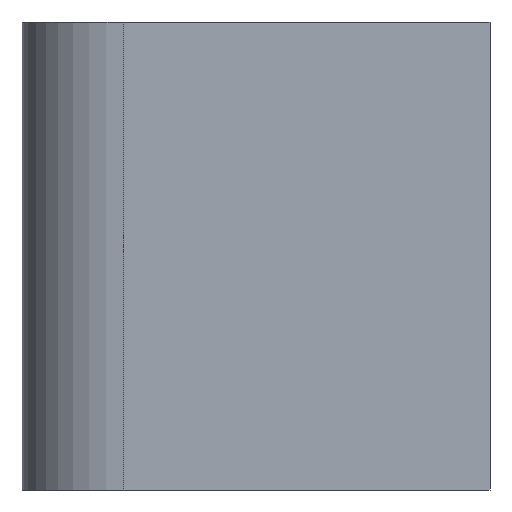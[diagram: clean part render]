
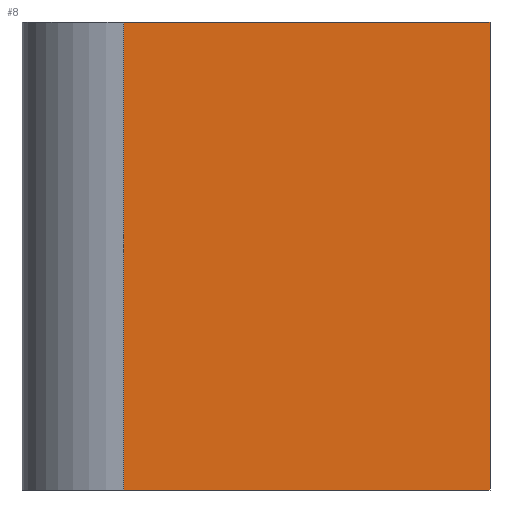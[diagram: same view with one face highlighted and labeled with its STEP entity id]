
A CAD part, left-side view. The second image highlights one B-rep face of the part: STEP entity #8.
In plain terms, the highlighted planar face has unit normal (-1, 0, 0).
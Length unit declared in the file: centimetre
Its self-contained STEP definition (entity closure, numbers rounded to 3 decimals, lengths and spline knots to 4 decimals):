
#7 = CARTESIAN_POINT ( 'NONE',  ( 0., 1000., 0. ) ) ;
#8 = ADVANCED_FACE ( 'NONE', ( #396 ), #41, .F. ) ;
#39 = VERTEX_POINT ( 'NONE', #788 ) ;
#41 = PLANE ( 'NONE',  #840 ) ;
#45 = CARTESIAN_POINT ( 'NONE',  ( 0., 1000., 1000. ) ) ;
#53 = DIRECTION ( 'NONE',  ( 0., -1., 0. ) ) ;
#177 = EDGE_LOOP ( 'NONE', ( #456, #339, #236, #620 ) ) ;
#211 = DIRECTION ( 'NONE',  ( 0., -1., 0. ) ) ;
#236 = ORIENTED_EDGE ( 'NONE', *, *, #947, .T. ) ;
#255 = VECTOR ( 'NONE', #1184, 100. ) ;
#263 = EDGE_CURVE ( 'NONE', #799, #39, #1179, .T. ) ;
#309 = CARTESIAN_POINT ( 'NONE',  ( 0., 1000., 1000. ) ) ;
#339 = ORIENTED_EDGE ( 'NONE', *, *, #475, .T. ) ;
#360 = EDGE_CURVE ( 'NONE', #39, #1107, #537, .T. ) ;
#390 = VECTOR ( 'NONE', #467, 100. ) ;
#396 = FACE_OUTER_BOUND ( 'NONE', #177, .T. ) ;
#415 = VERTEX_POINT ( 'NONE', #1108 ) ;
#417 = DIRECTION ( 'NONE',  ( 0., 0., -1. ) ) ;
#456 = ORIENTED_EDGE ( 'NONE', *, *, #263, .F. ) ;
#467 = DIRECTION ( 'NONE',  ( 0., 0., -1. ) ) ;
#475 = EDGE_CURVE ( 'NONE', #799, #415, #477, .T. ) ;
#477 = LINE ( 'NONE', #1116, #390 ) ;
#537 = LINE ( 'NONE', #908, #255 ) ;
#586 = LINE ( 'NONE', #7, #666 ) ;
#620 = ORIENTED_EDGE ( 'NONE', *, *, #360, .F. ) ;
#666 = VECTOR ( 'NONE', #211, 100. ) ;
#677 = CARTESIAN_POINT ( 'NONE',  ( 0., 782.9565, 1000. ) ) ;
#777 = CARTESIAN_POINT ( 'NONE',  ( 0., 0., 0. ) ) ;
#788 = CARTESIAN_POINT ( 'NONE',  ( 0., 0., 1000. ) ) ;
#799 = VERTEX_POINT ( 'NONE', #677 ) ;
#840 = AXIS2_PLACEMENT_3D ( 'NONE', #309, #887, #417 ) ;
#887 = DIRECTION ( 'NONE',  ( 1., 0., 0. ) ) ;
#908 = CARTESIAN_POINT ( 'NONE',  ( 0., 0., 1000. ) ) ;
#947 = EDGE_CURVE ( 'NONE', #415, #1107, #586, .T. ) ;
#1107 = VERTEX_POINT ( 'NONE', #777 ) ;
#1108 = CARTESIAN_POINT ( 'NONE',  ( 0., 782.9565, 0. ) ) ;
#1116 = CARTESIAN_POINT ( 'NONE',  ( 0., 782.9565, 1000. ) ) ;
#1142 = VECTOR ( 'NONE', #53, 100. ) ;
#1179 = LINE ( 'NONE', #45, #1142 ) ;
#1184 = DIRECTION ( 'NONE',  ( 0., 0., -1. ) ) ;
